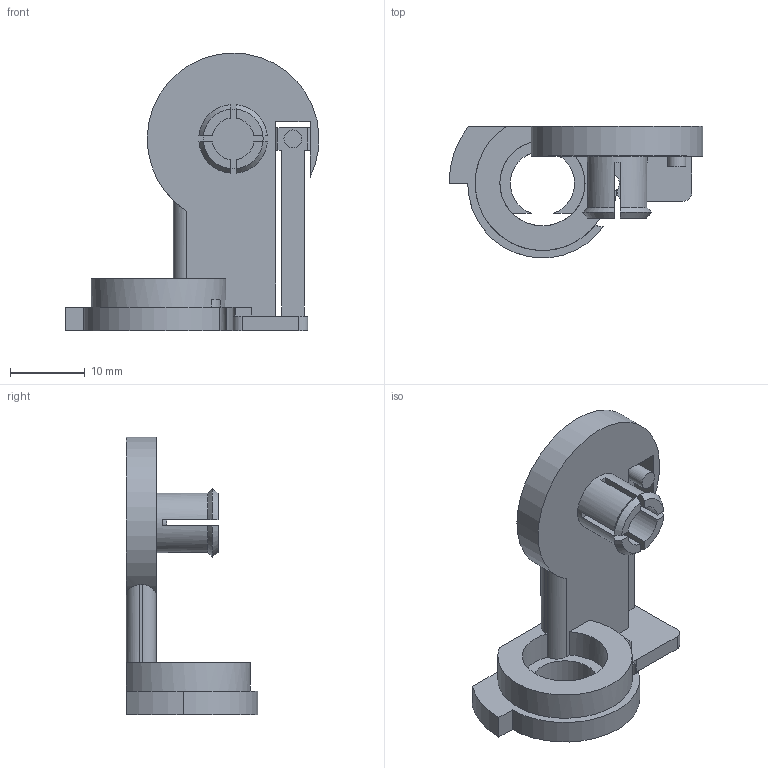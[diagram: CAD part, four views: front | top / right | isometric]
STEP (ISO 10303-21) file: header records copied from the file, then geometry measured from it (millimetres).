
FILE_DESCRIPTION(('Open CASCADE Model'),'2;1');
FILE_NAME('Open CASCADE Shape Model','2026-10-14T00:43:49',('Author'),( 'Open CASCADE'),'Open CASCADE STEP processor 8.0','build123d', 'Unknown');
FILE_SCHEMA(('AUTOMOTIVE_DESIGN { 1 0 10303 214 1 1 1 1 }'));
Length unit declared in the file: millimetre
Products named in the file (1): COMPOUND
Bounding box: 33.99 x 17.59 x 37.2 mm (x, y, z)
Volume: 3879 mm3; surface area: 3485.1 mm2
Topology: 1 solids, 1 shells, 82 faces, 240 edges, 158 vertices
Faces by surface type: plane 47, cylinder 27, cone 8
Full cylindrical faces by diameter (mm): 2.4 x1, 2.6 x1, 8 x1
Entity records: 6034 total; most frequent: CARTESIAN_POINT 1530, DIRECTION 786, ORIENTED_EDGE 480, PCURVE 480, DEFINITIONAL_REPRESENTATION 480, LINE 369, VECTOR 369, EDGE_CURVE 240
